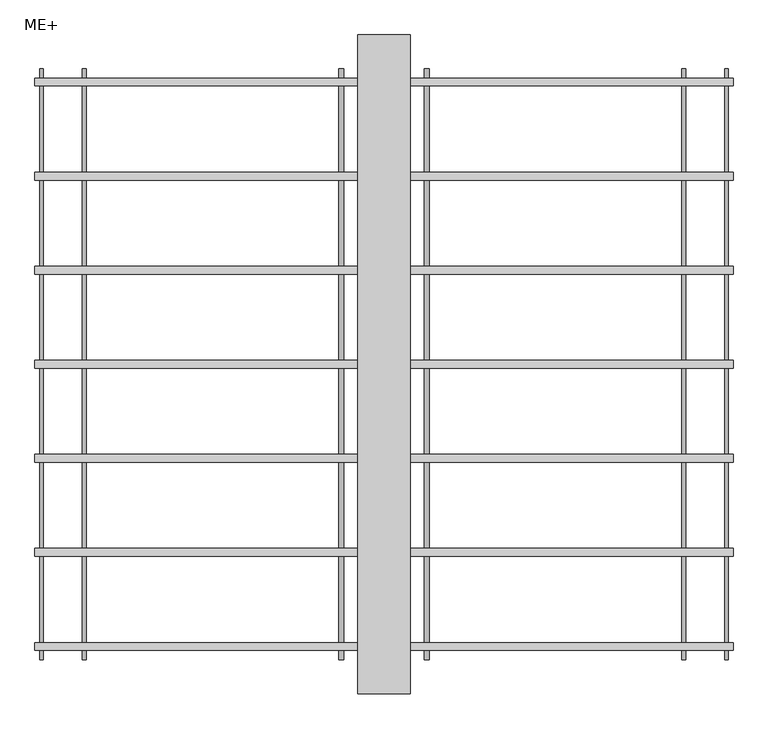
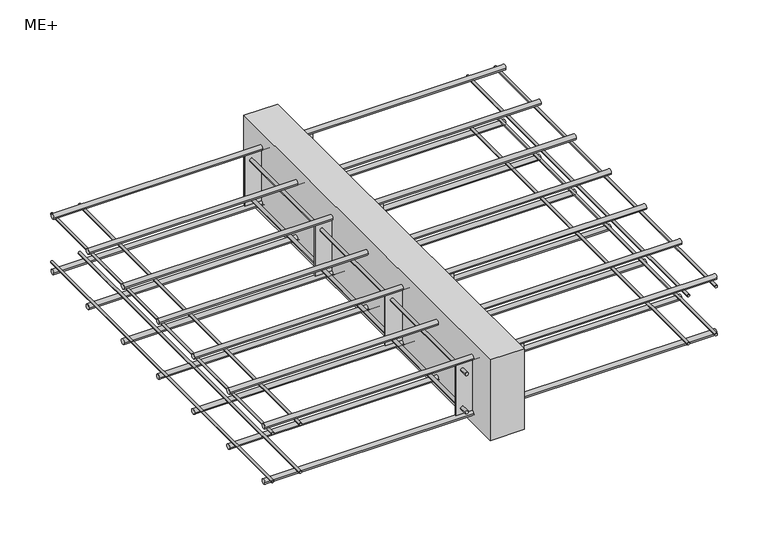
"""IFC4 building model written with IfcOpenShell, lengths in millimetres: proxy geometry, ACINOXplus_Typenreihe_M : ME+."""

from ifc_helpers import new_model, si_unit, point, frame, frame_2d, origin, place, context, project, spatial, polyline, circle_curve, trimmed, segment, composite_curve, outline, extrude, source, transform, mapped, element, save


def me_7bed1c33(model_context):
    return source(origin(), model_context, "Body", "SweptSolid", [
        extrude(outline(polyline([(40.0, 500.0), (40.0, -500.0), (-40.0, -500.0), (-40.0, 500.0), (40.0, 500.0)])), frame((0.0, 0.0, -200.0), z_axis=(0.0, 0.0, 1.0), x_axis=(1.0, 0.0, 0.0)), (0.0, 0.0, 1.0), 200.0),
        extrude(outline(polyline([(80.0, -141.3571429), (80.0, -144.3571429), (-80.0, -144.3571429), (-80.0, -141.3571429), (80.0, -141.3571429)])), frame((0.0, 0.0, -167.0), z_axis=(0.0, 0.0, 1.0), x_axis=(1.0, 0.0, 0.0)), (0.0, 0.0, 1.0), 125.0),
        extrude(outline(polyline([(80.0, 144.3571429), (80.0, 141.3571429), (-80.0, 141.3571429), (-80.0, 144.3571429), (80.0, 144.3571429)])), frame((0.0, 0.0, -167.0), z_axis=(0.0, 0.0, 1.0), x_axis=(1.0, 0.0, 0.0)), (0.0, 0.0, 1.0), 125.0),
        extrude(outline(polyline([(80.0, -427.0714286), (80.0, -430.0714286), (-80.0, -430.0714286), (-80.0, -427.0714286), (80.0, -427.0714286)])), frame((0.0, 0.0, -167.0), z_axis=(0.0, 0.0, 1.0), x_axis=(1.0, 0.0, 0.0)), (0.0, 0.0, 1.0), 125.0),
        extrude(outline(polyline([(80.0, 430.0714286), (80.0, 427.0714286), (-80.0, 427.0714286), (-80.0, 430.0714286), (80.0, 430.0714286)])), frame((0.0, 0.0, -167.0), z_axis=(0.0, 0.0, 1.0), x_axis=(1.0, 0.0, 0.0)), (0.0, 0.0, 1.0), 125.0),
        extrude(outline(composite_curve([segment(trimmed(circle_curve(frame_2d((-152.0, -65.0)), 4.0), [point((-152.0, -61.0))], [point((-152.0, -69.0))], False, "CARTESIAN"), True, "CONTINUOUS"), segment(trimmed(circle_curve(frame_2d((-152.0, -65.0)), 4.0), [point((-152.0, -69.0))], [point((-152.0, -61.0))], False, "CARTESIAN"), True, "CONTINUOUS")], self_intersect=False)), frame((0.0, -448.5714286, 0.0), z_axis=(0.0, 1.0, 0.0), x_axis=(0.0, 0.0, 1.0)), (0.0, 0.0, 1.0), 18.5),
        extrude(outline(composite_curve([segment(trimmed(circle_curve(frame_2d((-152.0, -65.0)), 4.0), [point((-152.0, -69.0))], [point((-152.0, -61.0))], False, "CARTESIAN"), True, "CONTINUOUS"), segment(trimmed(circle_curve(frame_2d((-152.0, -65.0)), 4.0), [point((-152.0, -61.0))], [point((-152.0, -69.0))], False, "CARTESIAN"), True, "CONTINUOUS")], self_intersect=False)), frame((0.0, -427.0714286, 0.0), z_axis=(0.0, 1.0, 0.0), x_axis=(0.0, 0.0, 1.0)), (0.0, 0.0, 1.0), 568.4285714),
        extrude(outline(composite_curve([segment(trimmed(circle_curve(frame_2d((-152.0, -65.0)), 4.0), [point((-152.0, -69.0))], [point((-152.0, -61.0))], False, "CARTESIAN"), True, "CONTINUOUS"), segment(trimmed(circle_curve(frame_2d((-152.0, -65.0)), 4.0), [point((-152.0, -61.0))], [point((-152.0, -69.0))], False, "CARTESIAN"), True, "CONTINUOUS")], self_intersect=False)), frame((0.0, 430.0714286, 0.0), z_axis=(0.0, 1.0, 0.0), x_axis=(0.0, 0.0, 1.0)), (0.0, 0.0, 1.0), 18.5),
        extrude(outline(composite_curve([segment(trimmed(circle_curve(frame_2d((-152.0, -65.0)), 4.0), [point((-152.0, -69.0))], [point((-152.0, -61.0))], False, "CARTESIAN"), True, "CONTINUOUS"), segment(trimmed(circle_curve(frame_2d((-152.0, -65.0)), 4.0), [point((-152.0, -61.0))], [point((-152.0, -69.0))], False, "CARTESIAN"), True, "CONTINUOUS")], self_intersect=False)), frame((0.0, 144.3571429, 0.0), z_axis=(0.0, 1.0, 0.0), x_axis=(0.0, 0.0, 1.0)), (0.0, 0.0, 1.0), 282.7142857),
        extrude(outline(composite_curve([segment(trimmed(circle_curve(frame_2d((-152.0, 65.0)), 4.0), [point((-152.0, 69.0))], [point((-152.0, 61.0))], False, "CARTESIAN"), True, "CONTINUOUS"), segment(trimmed(circle_curve(frame_2d((-152.0, 65.0)), 4.0), [point((-152.0, 61.0))], [point((-152.0, 69.0))], False, "CARTESIAN"), True, "CONTINUOUS")], self_intersect=False)), frame((0.0, -448.5714286, 0.0), z_axis=(0.0, 1.0, 0.0), x_axis=(0.0, 0.0, 1.0)), (0.0, 0.0, 1.0), 18.5),
        extrude(outline(composite_curve([segment(trimmed(circle_curve(frame_2d((-152.0, 65.0)), 4.0), [point((-152.0, 61.0))], [point((-152.0, 69.0))], False, "CARTESIAN"), True, "CONTINUOUS"), segment(trimmed(circle_curve(frame_2d((-152.0, 65.0)), 4.0), [point((-152.0, 69.0))], [point((-152.0, 61.0))], False, "CARTESIAN"), True, "CONTINUOUS")], self_intersect=False)), frame((0.0, -427.0714286, 0.0), z_axis=(0.0, 1.0, 0.0), x_axis=(0.0, 0.0, 1.0)), (0.0, 0.0, 1.0), 568.4285714),
        extrude(outline(composite_curve([segment(trimmed(circle_curve(frame_2d((-152.0, 65.0)), 4.0), [point((-152.0, 61.0))], [point((-152.0, 69.0))], False, "CARTESIAN"), True, "CONTINUOUS"), segment(trimmed(circle_curve(frame_2d((-152.0, 65.0)), 4.0), [point((-152.0, 69.0))], [point((-152.0, 61.0))], False, "CARTESIAN"), True, "CONTINUOUS")], self_intersect=False)), frame((0.0, 430.0714286, 0.0), z_axis=(0.0, 1.0, 0.0), x_axis=(0.0, 0.0, 1.0)), (0.0, 0.0, 1.0), 18.5),
        extrude(outline(composite_curve([segment(trimmed(circle_curve(frame_2d((-152.0, 65.0)), 4.0), [point((-152.0, 61.0))], [point((-152.0, 69.0))], False, "CARTESIAN"), True, "CONTINUOUS"), segment(trimmed(circle_curve(frame_2d((-152.0, 65.0)), 4.0), [point((-152.0, 69.0))], [point((-152.0, 61.0))], False, "CARTESIAN"), True, "CONTINUOUS")], self_intersect=False)), frame((0.0, 144.3571429, 0.0), z_axis=(0.0, 1.0, 0.0), x_axis=(0.0, 0.0, 1.0)), (0.0, 0.0, 1.0), 282.7142857),
        extrude(outline(composite_curve([segment(trimmed(circle_curve(frame_2d((-57.0, -65.0)), 4.0), [point((-57.0, -61.0))], [point((-57.0, -69.0))], False, "CARTESIAN"), True, "CONTINUOUS"), segment(trimmed(circle_curve(frame_2d((-57.0, -65.0)), 4.0), [point((-57.0, -69.0))], [point((-57.0, -61.0))], False, "CARTESIAN"), True, "CONTINUOUS")], self_intersect=False)), frame((0.0, -448.5714286, 0.0), z_axis=(0.0, 1.0, 0.0), x_axis=(0.0, 0.0, 1.0)), (0.0, 0.0, 1.0), 18.5),
        extrude(outline(composite_curve([segment(trimmed(circle_curve(frame_2d((-57.0, -65.0)), 4.0), [point((-57.0, -69.0))], [point((-57.0, -61.0))], False, "CARTESIAN"), True, "CONTINUOUS"), segment(trimmed(circle_curve(frame_2d((-57.0, -65.0)), 4.0), [point((-57.0, -61.0))], [point((-57.0, -69.0))], False, "CARTESIAN"), True, "CONTINUOUS")], self_intersect=False)), frame((0.0, -427.0714286, 0.0), z_axis=(0.0, 1.0, 0.0), x_axis=(0.0, 0.0, 1.0)), (0.0, 0.0, 1.0), 568.4285714),
        extrude(outline(composite_curve([segment(trimmed(circle_curve(frame_2d((-57.0, -65.0)), 4.0), [point((-57.0, -69.0))], [point((-57.0, -61.0))], False, "CARTESIAN"), True, "CONTINUOUS"), segment(trimmed(circle_curve(frame_2d((-57.0, -65.0)), 4.0), [point((-57.0, -61.0))], [point((-57.0, -69.0))], False, "CARTESIAN"), True, "CONTINUOUS")], self_intersect=False)), frame((0.0, 430.0714286, 0.0), z_axis=(0.0, 1.0, 0.0), x_axis=(0.0, 0.0, 1.0)), (0.0, 0.0, 1.0), 18.5),
        extrude(outline(composite_curve([segment(trimmed(circle_curve(frame_2d((-57.0, -65.0)), 4.0), [point((-57.0, -69.0))], [point((-57.0, -61.0))], False, "CARTESIAN"), True, "CONTINUOUS"), segment(trimmed(circle_curve(frame_2d((-57.0, -65.0)), 4.0), [point((-57.0, -61.0))], [point((-57.0, -69.0))], False, "CARTESIAN"), True, "CONTINUOUS")], self_intersect=False)), frame((0.0, 144.3571429, 0.0), z_axis=(0.0, 1.0, 0.0), x_axis=(0.0, 0.0, 1.0)), (0.0, 0.0, 1.0), 282.7142857),
        extrude(outline(composite_curve([segment(trimmed(circle_curve(frame_2d((-57.0, 65.0)), 4.0), [point((-57.0, 69.0))], [point((-57.0, 61.0))], False, "CARTESIAN"), True, "CONTINUOUS"), segment(trimmed(circle_curve(frame_2d((-57.0, 65.0)), 4.0), [point((-57.0, 61.0))], [point((-57.0, 69.0))], False, "CARTESIAN"), True, "CONTINUOUS")], self_intersect=False)), frame((0.0, -448.5714286, 0.0), z_axis=(0.0, 1.0, 0.0), x_axis=(0.0, 0.0, 1.0)), (0.0, 0.0, 1.0), 18.5),
        extrude(outline(composite_curve([segment(trimmed(circle_curve(frame_2d((-57.0, 65.0)), 4.0), [point((-57.0, 61.0))], [point((-57.0, 69.0))], False, "CARTESIAN"), True, "CONTINUOUS"), segment(trimmed(circle_curve(frame_2d((-57.0, 65.0)), 4.0), [point((-57.0, 69.0))], [point((-57.0, 61.0))], False, "CARTESIAN"), True, "CONTINUOUS")], self_intersect=False)), frame((0.0, -427.0714286, 0.0), z_axis=(0.0, 1.0, 0.0), x_axis=(0.0, 0.0, 1.0)), (0.0, 0.0, 1.0), 568.4285714),
        extrude(outline(composite_curve([segment(trimmed(circle_curve(frame_2d((-57.0, 65.0)), 4.0), [point((-57.0, 61.0))], [point((-57.0, 69.0))], False, "CARTESIAN"), True, "CONTINUOUS"), segment(trimmed(circle_curve(frame_2d((-57.0, 65.0)), 4.0), [point((-57.0, 69.0))], [point((-57.0, 61.0))], False, "CARTESIAN"), True, "CONTINUOUS")], self_intersect=False)), frame((0.0, 430.0714286, 0.0), z_axis=(0.0, 1.0, 0.0), x_axis=(0.0, 0.0, 1.0)), (0.0, 0.0, 1.0), 18.5),
        extrude(outline(composite_curve([segment(trimmed(circle_curve(frame_2d((-57.0, 65.0)), 4.0), [point((-57.0, 61.0))], [point((-57.0, 69.0))], False, "CARTESIAN"), True, "CONTINUOUS"), segment(trimmed(circle_curve(frame_2d((-57.0, 65.0)), 4.0), [point((-57.0, 69.0))], [point((-57.0, 61.0))], False, "CARTESIAN"), True, "CONTINUOUS")], self_intersect=False)), frame((0.0, 144.3571429, 0.0), z_axis=(0.0, 1.0, 0.0), x_axis=(0.0, 0.0, 1.0)), (0.0, 0.0, 1.0), 282.7142857),
        extrude(outline(composite_curve([segment(trimmed(circle_curve(frame_2d((142.8571429, -173.0)), 6.0), [point((136.8571429, -173.0))], [point((148.8571429, -173.0))], False, "CARTESIAN"), True, "CONTINUOUS"), segment(trimmed(circle_curve(frame_2d((142.8571429, -173.0)), 6.0), [point((148.8571429, -173.0))], [point((136.8571429, -173.0))], False, "CARTESIAN"), True, "CONTINUOUS")], self_intersect=False)), frame((-530.0, 0.0, 0.0), z_axis=(1.0, 0.0, 0.0), x_axis=(0.0, 1.0, 0.0)), (0.0, 0.0, 1.0), 1060.0),
        extrude(outline(composite_curve([segment(trimmed(circle_curve(frame_2d((0.0, -173.0)), 6.0), [point((-6.0, -173.0))], [point((6.0, -173.0))], False, "CARTESIAN"), True, "CONTINUOUS"), segment(trimmed(circle_curve(frame_2d((0.0, -173.0)), 6.0), [point((6.0, -173.0))], [point((-6.0, -173.0))], False, "CARTESIAN"), True, "CONTINUOUS")], self_intersect=False)), frame((-530.0, 0.0, 0.0), z_axis=(1.0, 0.0, 0.0), x_axis=(0.0, 1.0, 0.0)), (0.0, 0.0, 1.0), 1060.0),
        extrude(outline(composite_curve([segment(trimmed(circle_curve(frame_2d((-142.8571429, -173.0)), 6.0), [point((-148.8571429, -173.0))], [point((-136.8571429, -173.0))], False, "CARTESIAN"), True, "CONTINUOUS"), segment(trimmed(circle_curve(frame_2d((-142.8571429, -173.0)), 6.0), [point((-136.8571429, -173.0))], [point((-148.8571429, -173.0))], False, "CARTESIAN"), True, "CONTINUOUS")], self_intersect=False)), frame((-530.0, 0.0, 0.0), z_axis=(1.0, 0.0, 0.0), x_axis=(0.0, 1.0, 0.0)), (0.0, 0.0, 1.0), 1060.0),
        extrude(outline(composite_curve([segment(trimmed(circle_curve(frame_2d((285.7142857, -173.0)), 6.0), [point((279.7142857, -173.0))], [point((291.7142857, -173.0))], False, "CARTESIAN"), True, "CONTINUOUS"), segment(trimmed(circle_curve(frame_2d((285.7142857, -173.0)), 6.0), [point((291.7142857, -173.0))], [point((279.7142857, -173.0))], False, "CARTESIAN"), True, "CONTINUOUS")], self_intersect=False)), frame((-530.0, 0.0, 0.0), z_axis=(1.0, 0.0, 0.0), x_axis=(0.0, 1.0, 0.0)), (0.0, 0.0, 1.0), 1060.0),
        extrude(outline(composite_curve([segment(trimmed(circle_curve(frame_2d((428.5714286, -173.0)), 6.0), [point((422.5714286, -173.0))], [point((434.5714286, -173.0))], False, "CARTESIAN"), True, "CONTINUOUS"), segment(trimmed(circle_curve(frame_2d((428.5714286, -173.0)), 6.0), [point((434.5714286, -173.0))], [point((422.5714286, -173.0))], False, "CARTESIAN"), True, "CONTINUOUS")], self_intersect=False)), frame((-530.0, 0.0, 0.0), z_axis=(1.0, 0.0, 0.0), x_axis=(0.0, 1.0, 0.0)), (0.0, 0.0, 1.0), 1060.0),
        extrude(outline(composite_curve([segment(trimmed(circle_curve(frame_2d((-285.7142857, -173.0)), 6.0), [point((-291.7142857, -173.0))], [point((-279.7142857, -173.0))], False, "CARTESIAN"), True, "CONTINUOUS"), segment(trimmed(circle_curve(frame_2d((-285.7142857, -173.0)), 6.0), [point((-279.7142857, -173.0))], [point((-291.7142857, -173.0))], False, "CARTESIAN"), True, "CONTINUOUS")], self_intersect=False)), frame((-530.0, 0.0, 0.0), z_axis=(1.0, 0.0, 0.0), x_axis=(0.0, 1.0, 0.0)), (0.0, 0.0, 1.0), 1060.0),
        extrude(outline(composite_curve([segment(trimmed(circle_curve(frame_2d((-428.5714286, -173.0)), 6.0), [point((-434.5714286, -173.0))], [point((-422.5714286, -173.0))], False, "CARTESIAN"), True, "CONTINUOUS"), segment(trimmed(circle_curve(frame_2d((-428.5714286, -173.0)), 6.0), [point((-422.5714286, -173.0))], [point((-434.5714286, -173.0))], False, "CARTESIAN"), True, "CONTINUOUS")], self_intersect=False)), frame((-530.0, 0.0, 0.0), z_axis=(1.0, 0.0, 0.0), x_axis=(0.0, 1.0, 0.0)), (0.0, 0.0, 1.0), 1060.0),
        extrude(outline(composite_curve([segment(trimmed(circle_curve(frame_2d((142.8571429, -36.0)), 6.0), [point((136.8571429, -36.0))], [point((148.8571429, -36.0))], False, "CARTESIAN"), True, "CONTINUOUS"), segment(trimmed(circle_curve(frame_2d((142.8571429, -36.0)), 6.0), [point((148.8571429, -36.0))], [point((136.8571429, -36.0))], False, "CARTESIAN"), True, "CONTINUOUS")], self_intersect=False)), frame((-530.0, 0.0, 0.0), z_axis=(1.0, 0.0, 0.0), x_axis=(0.0, 1.0, 0.0)), (0.0, 0.0, 1.0), 1060.0),
        extrude(outline(composite_curve([segment(trimmed(circle_curve(frame_2d((0.0, -36.0)), 6.0), [point((-6.0, -36.0))], [point((6.0, -36.0))], False, "CARTESIAN"), True, "CONTINUOUS"), segment(trimmed(circle_curve(frame_2d((0.0, -36.0)), 6.0), [point((6.0, -36.0))], [point((-6.0, -36.0))], False, "CARTESIAN"), True, "CONTINUOUS")], self_intersect=False)), frame((-530.0, 0.0, 0.0), z_axis=(1.0, 0.0, 0.0), x_axis=(0.0, 1.0, 0.0)), (0.0, 0.0, 1.0), 1060.0),
        extrude(outline(composite_curve([segment(trimmed(circle_curve(frame_2d((-142.8571429, -36.0)), 6.0), [point((-148.8571429, -36.0))], [point((-136.8571429, -36.0))], False, "CARTESIAN"), True, "CONTINUOUS"), segment(trimmed(circle_curve(frame_2d((-142.8571429, -36.0)), 6.0), [point((-136.8571429, -36.0))], [point((-148.8571429, -36.0))], False, "CARTESIAN"), True, "CONTINUOUS")], self_intersect=False)), frame((-530.0, 0.0, 0.0), z_axis=(1.0, 0.0, 0.0), x_axis=(0.0, 1.0, 0.0)), (0.0, 0.0, 1.0), 1060.0),
        extrude(outline(composite_curve([segment(trimmed(circle_curve(frame_2d((285.7142857, -36.0)), 6.0), [point((279.7142857, -36.0))], [point((291.7142857, -36.0))], False, "CARTESIAN"), True, "CONTINUOUS"), segment(trimmed(circle_curve(frame_2d((285.7142857, -36.0)), 6.0), [point((291.7142857, -36.0))], [point((279.7142857, -36.0))], False, "CARTESIAN"), True, "CONTINUOUS")], self_intersect=False)), frame((-530.0, 0.0, 0.0), z_axis=(1.0, 0.0, 0.0), x_axis=(0.0, 1.0, 0.0)), (0.0, 0.0, 1.0), 1060.0),
        extrude(outline(composite_curve([segment(trimmed(circle_curve(frame_2d((428.5714286, -36.0)), 6.0), [point((422.5714286, -36.0))], [point((434.5714286, -36.0))], False, "CARTESIAN"), True, "CONTINUOUS"), segment(trimmed(circle_curve(frame_2d((428.5714286, -36.0)), 6.0), [point((434.5714286, -36.0))], [point((422.5714286, -36.0))], False, "CARTESIAN"), True, "CONTINUOUS")], self_intersect=False)), frame((-530.0, 0.0, 0.0), z_axis=(1.0, 0.0, 0.0), x_axis=(0.0, 1.0, 0.0)), (0.0, 0.0, 1.0), 1060.0),
        extrude(outline(composite_curve([segment(trimmed(circle_curve(frame_2d((-285.7142857, -36.0)), 6.0), [point((-291.7142857, -36.0))], [point((-279.7142857, -36.0))], False, "CARTESIAN"), True, "CONTINUOUS"), segment(trimmed(circle_curve(frame_2d((-285.7142857, -36.0)), 6.0), [point((-279.7142857, -36.0))], [point((-291.7142857, -36.0))], False, "CARTESIAN"), True, "CONTINUOUS")], self_intersect=False)), frame((-530.0, 0.0, 0.0), z_axis=(1.0, 0.0, 0.0), x_axis=(0.0, 1.0, 0.0)), (0.0, 0.0, 1.0), 1060.0),
        extrude(outline(composite_curve([segment(trimmed(circle_curve(frame_2d((-428.5714286, -36.0)), 6.0), [point((-434.5714286, -36.0))], [point((-422.5714286, -36.0))], False, "CARTESIAN"), True, "CONTINUOUS"), segment(trimmed(circle_curve(frame_2d((-428.5714286, -36.0)), 6.0), [point((-422.5714286, -36.0))], [point((-434.5714286, -36.0))], False, "CARTESIAN"), True, "CONTINUOUS")], self_intersect=False)), frame((-530.0, 0.0, 0.0), z_axis=(1.0, 0.0, 0.0), x_axis=(0.0, 1.0, 0.0)), (0.0, 0.0, 1.0), 1060.0),
        extrude(outline(composite_curve([segment(trimmed(circle_curve(frame_2d((-164.0, -520.0)), 3.0), [point((-164.0, -517.0))], [point((-164.0, -523.0))], False, "CARTESIAN"), True, "CONTINUOUS"), segment(trimmed(circle_curve(frame_2d((-164.0, -520.0)), 3.0), [point((-164.0, -523.0))], [point((-164.0, -517.0))], False, "CARTESIAN"), True, "CONTINUOUS")], self_intersect=False)), frame((0.0, -448.5714286, 0.0), z_axis=(0.0, 1.0, 0.0), x_axis=(0.0, 0.0, 1.0)), (0.0, 0.0, 1.0), 897.1428571),
        extrude(outline(composite_curve([segment(trimmed(circle_curve(frame_2d((-164.0, -455.0)), 3.0), [point((-164.0, -452.0))], [point((-164.0, -458.0))], False, "CARTESIAN"), True, "CONTINUOUS"), segment(trimmed(circle_curve(frame_2d((-164.0, -455.0)), 3.0), [point((-164.0, -458.0))], [point((-164.0, -452.0))], False, "CARTESIAN"), True, "CONTINUOUS")], self_intersect=False)), frame((0.0, -448.5714286, 0.0), z_axis=(0.0, 1.0, 0.0), x_axis=(0.0, 0.0, 1.0)), (0.0, 0.0, 1.0), 897.1428571),
        extrude(outline(composite_curve([segment(trimmed(circle_curve(frame_2d((-164.0, 455.0)), 3.0), [point((-164.0, 458.0))], [point((-164.0, 452.0))], False, "CARTESIAN"), True, "CONTINUOUS"), segment(trimmed(circle_curve(frame_2d((-164.0, 455.0)), 3.0), [point((-164.0, 452.0))], [point((-164.0, 458.0))], False, "CARTESIAN"), True, "CONTINUOUS")], self_intersect=False)), frame((0.0, -448.5714286, 0.0), z_axis=(0.0, 1.0, 0.0), x_axis=(0.0, 0.0, 1.0)), (0.0, 0.0, 1.0), 897.1428571),
        extrude(outline(composite_curve([segment(trimmed(circle_curve(frame_2d((-164.0, 520.0)), 3.0), [point((-164.0, 523.0))], [point((-164.0, 517.0))], False, "CARTESIAN"), True, "CONTINUOUS"), segment(trimmed(circle_curve(frame_2d((-164.0, 520.0)), 3.0), [point((-164.0, 517.0))], [point((-164.0, 523.0))], False, "CARTESIAN"), True, "CONTINUOUS")], self_intersect=False)), frame((0.0, -448.5714286, 0.0), z_axis=(0.0, 1.0, 0.0), x_axis=(0.0, 0.0, 1.0)), (0.0, 0.0, 1.0), 897.1428571),
        extrude(outline(composite_curve([segment(trimmed(circle_curve(frame_2d((-45.0, 455.0)), 3.0), [point((-45.0, 458.0))], [point((-45.0, 452.0))], False, "CARTESIAN"), True, "CONTINUOUS"), segment(trimmed(circle_curve(frame_2d((-45.0, 455.0)), 3.0), [point((-45.0, 452.0))], [point((-45.0, 458.0))], False, "CARTESIAN"), True, "CONTINUOUS")], self_intersect=False)), frame((0.0, -448.5714286, 0.0), z_axis=(0.0, 1.0, 0.0), x_axis=(0.0, 0.0, 1.0)), (0.0, 0.0, 1.0), 897.1428571),
        extrude(outline(composite_curve([segment(trimmed(circle_curve(frame_2d((-45.0, 520.0)), 3.0), [point((-45.0, 523.0))], [point((-45.0, 517.0))], False, "CARTESIAN"), True, "CONTINUOUS"), segment(trimmed(circle_curve(frame_2d((-45.0, 520.0)), 3.0), [point((-45.0, 517.0))], [point((-45.0, 523.0))], False, "CARTESIAN"), True, "CONTINUOUS")], self_intersect=False)), frame((0.0, -448.5714286, 0.0), z_axis=(0.0, 1.0, 0.0), x_axis=(0.0, 0.0, 1.0)), (0.0, 0.0, 1.0), 897.1428571),
        extrude(outline(composite_curve([segment(trimmed(circle_curve(frame_2d((-45.0, -520.0)), 3.0), [point((-45.0, -517.0))], [point((-45.0, -523.0))], False, "CARTESIAN"), True, "CONTINUOUS"), segment(trimmed(circle_curve(frame_2d((-45.0, -520.0)), 3.0), [point((-45.0, -523.0))], [point((-45.0, -517.0))], False, "CARTESIAN"), True, "CONTINUOUS")], self_intersect=False)), frame((0.0, -448.5714286, 0.0), z_axis=(0.0, 1.0, 0.0), x_axis=(0.0, 0.0, 1.0)), (0.0, 0.0, 1.0), 897.1428571),
        extrude(outline(composite_curve([segment(trimmed(circle_curve(frame_2d((-45.0, -455.0)), 3.0), [point((-45.0, -452.0))], [point((-45.0, -458.0))], False, "CARTESIAN"), True, "CONTINUOUS"), segment(trimmed(circle_curve(frame_2d((-45.0, -455.0)), 3.0), [point((-45.0, -458.0))], [point((-45.0, -452.0))], False, "CARTESIAN"), True, "CONTINUOUS")], self_intersect=False)), frame((0.0, -448.5714286, 0.0), z_axis=(0.0, 1.0, 0.0), x_axis=(0.0, 0.0, 1.0)), (0.0, 0.0, 1.0), 897.1428571),
    ])


if __name__ == "__main__":
    model = new_model("IFC4")
    model_context = context("Model", 3, world=origin())
    ifc_project = project(units=[si_unit("LENGTHUNIT", "METRE", prefix="MILLI")], contexts=[model_context])
    site = spatial("IfcSite", under=ifc_project)
    building = spatial("IfcBuilding", under=site)
    placement = place(None, origin())
    me_shape = me_7bed1c33(model_context)
    element("IfcBuildingElementProxy", 1, Name="ACINOXplus_Typenreihe_M : ME+", ObjectType="ACINOXplus_Typenreihe_M : ME+", at=placement, inside=building, context=model_context, shape_type="MappedRepresentation", body=[
        mapped(me_shape, transform((0.0, 0.0, 0.0), x_axis=(1.0, 0.0, 0.0), y_axis=(0.0, 1.0, 0.0), z_axis=(0.0, 0.0, 1.0))),
    ])
    save(model, "model.ifc")
